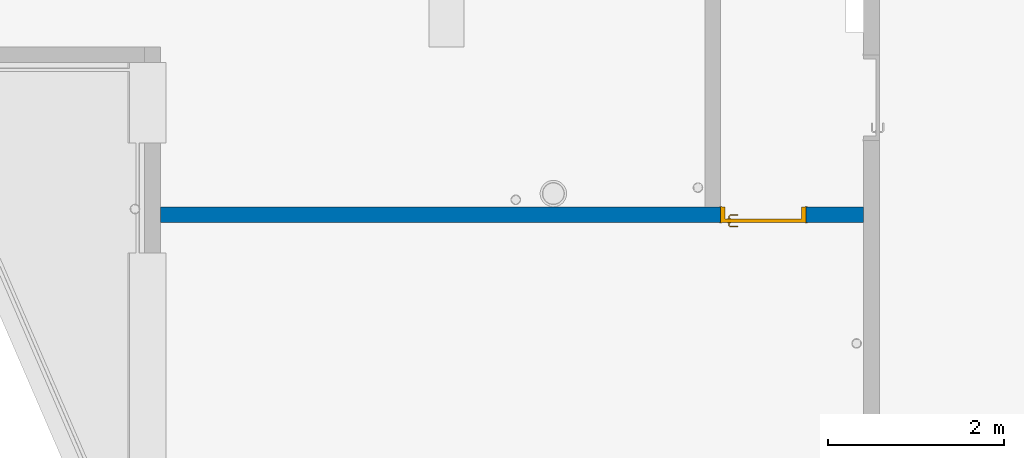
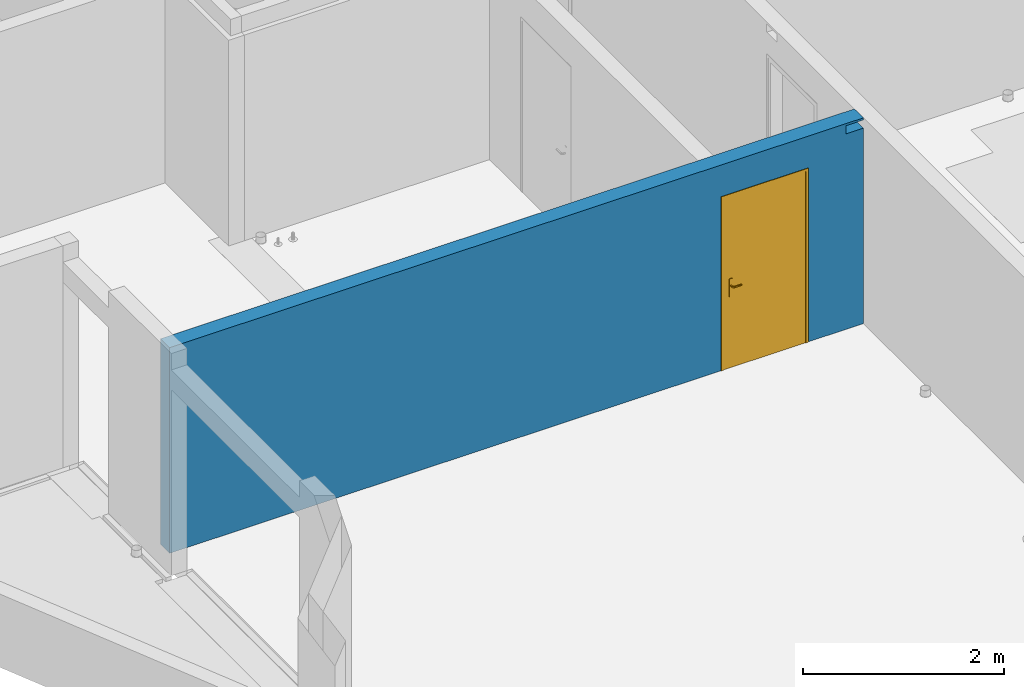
# One storey, part 3 of 30: 1 door, 1 wall, 2 openings.
"""IFC2X3 building model written with IfcOpenShell, lengths in centimetres."""

from ifc_helpers import new_model, entity, si_unit, converted_unit, derived_unit, direction, frame, frame_2d, origin, place, context, subcontext, project, spatial, rectangle, extrude, faceted_brep, source, transform, mapped, material, material_list, layer, layer_set, layer_usage, type_object, type_shapes, element, fill, save


model = new_model("IFC2X3")

# Units and contexts
model_context = context("Model", 3, precision=0.001, world=origin(), true_north=direction((6.12303176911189e-17, 1.0)))
body_context = subcontext(model_context, "Body", "Model", "MODEL_VIEW")
ifc_project = project(units=[si_unit("LENGTHUNIT", "METRE", prefix="CENTI"), si_unit("AREAUNIT", "SQUARE_METRE"), si_unit("VOLUMEUNIT", "CUBIC_METRE"), converted_unit("PLANEANGLEUNIT", "DEGREE", entity("IfcRatioMeasure", 0.0174532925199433), si_unit("PLANEANGLEUNIT", "RADIAN"), dimensions=[0, 0, 0, 0, 0, 0, 0]), si_unit("MASSUNIT", "GRAM", prefix="KILO"), derived_unit("MASSDENSITYUNIT", [(si_unit("MASSUNIT", "GRAM", prefix="KILO"), 1), (si_unit("LENGTHUNIT", "METRE"), -3)]), si_unit("TIMEUNIT", "SECOND"), si_unit("FREQUENCYUNIT", "HERTZ"), si_unit("THERMODYNAMICTEMPERATUREUNIT", "DEGREE_CELSIUS"), derived_unit("THERMALTRANSMITTANCEUNIT", [(si_unit("MASSUNIT", "GRAM", prefix="KILO"), 1), (si_unit("THERMODYNAMICTEMPERATUREUNIT", "KELVIN"), -1), (si_unit("TIMEUNIT", "SECOND"), -3)]), derived_unit("VOLUMETRICFLOWRATEUNIT", [(si_unit("LENGTHUNIT", "METRE"), 3), (si_unit("TIMEUNIT", "SECOND"), -1)]), si_unit("ELECTRICCURRENTUNIT", "AMPERE"), si_unit("ELECTRICVOLTAGEUNIT", "VOLT"), si_unit("POWERUNIT", "WATT"), si_unit("FORCEUNIT", "NEWTON"), si_unit("ILLUMINANCEUNIT", "LUX"), si_unit("LUMINOUSFLUXUNIT", "LUMEN"), si_unit("LUMINOUSINTENSITYUNIT", "CANDELA"), derived_unit("USERDEFINED", [(si_unit("MASSUNIT", "GRAM", prefix="KILO"), -1), (si_unit("LENGTHUNIT", "METRE"), -2), (si_unit("TIMEUNIT", "SECOND"), 3), (si_unit("LUMINOUSFLUXUNIT", "LUMEN"), 1)]), derived_unit("LINEARVELOCITYUNIT", [(si_unit("LENGTHUNIT", "METRE"), 1), (si_unit("TIMEUNIT", "SECOND"), -1)]), si_unit("PRESSUREUNIT", "PASCAL"), derived_unit("USERDEFINED", [(si_unit("LENGTHUNIT", "METRE"), -2), (si_unit("MASSUNIT", "GRAM", prefix="KILO"), 1), (si_unit("TIMEUNIT", "SECOND"), -2)])], contexts=[model_context])

# Site, building, storey
site_placement = place(None, origin())
site = spatial("IfcSite", under=ifc_project, at=site_placement, Name="Default", CompositionType="ELEMENT")
building_placement = place(site_placement, origin())
building = spatial("IfcBuilding", under=site, at=building_placement, Name="CAGE 03", CompositionType="ELEMENT")
storey_placement = place(building_placement, frame((0.0, 0.0, 610.0)))
storey = spatial("IfcBuildingStorey", under=building, at=storey_placement, Name="R+2", CompositionType="ELEMENT", Elevation=610.0)

# Wall, openings, door
ifc_material_1 = material(Name="Béton, C25/30")
ifc_layer = layer(ifc_material_1, 18.0)
ifc_layer_set = layer_set([ifc_layer], Name="Mur de base:Voile BA 18")
ifc_layer_usage = layer_usage(ifc_layer_set, "AXIS2", "NEGATIVE", 9.0)
wall_type = type_object("IfcWallType", Name="Mur de base:Voile BA 18", PredefinedType="STANDARD", material=ifc_layer_set)
wall_placement = place(storey_placement, frame((4134.36582014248, 4209.16066607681, 0.0), z_axis=(0.0, 0.0, 1.0), x_axis=(-1.0, 0.0, 0.0)))
wall = element("IfcWallStandardCase", 1, at=wall_placement, inside=storey, type_object=wall_type, material=ifc_layer_usage, Name="Mur de base:Voile BA 18", ObjectType="Mur de base:Voile BA 18", context=body_context, shape_type="SweptSolid", body=[
    extrude(rectangle(XDim=797.499999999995, YDim=17.9999999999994, at=frame_2d((398.749999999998, -2.65565347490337e-13), x_axis=(-1.0, 0.0))), origin(), (0.0, 0.0, 1.0), 250.0),
])
opening_1_placement = place(wall_placement, origin())
element("IfcOpeningElement", 2, at=opening_1_placement, cuts=wall, Name="Mur de base:Voile BA 18", ObjectType="Opening", context=body_context, shape_type="SweptSolid", body=[
    extrude(rectangle(XDim=10.0, YDim=19.9999999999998, at=frame_2d((4.33431068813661e-13, -5.41788836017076e-14), x_axis=(0.0, 1.0))), frame((10.0, -9.0, 242.5), z_axis=(0.0, 1.0, 0.0), x_axis=(1.0, 0.0, 0.0)), (0.0, 0.0, 1.0), 17.9999999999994),
])
opening_2_placement = place(wall_placement, frame((65.0, -9.0, 0.0)))
opening_2 = element("IfcOpeningElement", 3, at=opening_2_placement, cuts=wall, Name="Int. Simple:HB93:1", ObjectType="Opening", context=body_context, shape_type="SweptSolid", body=[
    extrude(rectangle(XDim=210.000000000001, YDim=96.9999999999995, at=frame_2d((105.000000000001, 48.4999999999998), x_axis=(1.0, 0.0))), frame((0.0, 0.0, 0.0), z_axis=(0.0, 1.0, 0.0), x_axis=(0.0, 0.0, 1.0)), (0.0, 0.0, 1.0), 18.0),
])
ifc_material_2 = material(Name="Finition Peinture - Blanc satiné")
ifc_material_3 = material(Name="Bois - Panneau de porte")
ifc_material_4 = material(Name="Bois - Cadre de porte")
ifc_material_list_1 = material_list([ifc_material_2, ifc_material_3, ifc_material_4])
ifc_material_list_2 = material_list([ifc_material_2, ifc_material_3, ifc_material_4])
door_style = type_object("IfcDoorStyle", Name="HB93", ConstructionType="NOTDEFINED", OperationType="SINGLE_SWING_LEFT", ParameterTakesPrecedence=False, Sizeable=False, material=ifc_material_list_2)
shared_shape = source(origin(), body_context, "Body", "Brep", [
    faceted_brep([(10.5352761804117, -0.500000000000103, 86.6003983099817), (11.5000000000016, -0.500000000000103, 87.0), (11.5000000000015, -0.500000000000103, 108.0), (10.5352761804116, -0.500000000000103, 108.399601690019), (9.50000000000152, -0.500000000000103, 108.535898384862), (8.46472381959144, -0.500000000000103, 108.399601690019), (7.50000000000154, -0.500000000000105, 108.0), (7.50000000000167, -0.500000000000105, 87.0), (8.46472381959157, -0.500000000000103, 86.6003983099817), (9.50000000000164, -0.500000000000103, 86.464101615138), (10.5352761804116, 0.0, 108.399601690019), (11.5000000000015, 0.0, 108.0), (11.5000000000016, 0.0, 87.0), (10.5352761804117, 0.0, 86.6003983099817), (9.50000000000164, 0.0, 86.464101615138), (8.46472381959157, 0.0, 86.6003983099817), (7.50000000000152, 0.0, 87.0), (7.50000000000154, 0.0, 108.0), (8.46472381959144, 0.0, 108.399601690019), (9.50000000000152, 0.0, 108.535898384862)], [[[0, 1, 2, 3, 4, 5, 6, 7, 8, 9]], [[10, 11, 12, 13, 14, 15, 16, 17, 18, 19]], [[16, 15, 8, 7]], [[8, 15, 14, 9]], [[14, 13, 0, 9]], [[13, 12, 1, 0]], [[2, 1, 12, 11]], [[11, 10, 3, 2]], [[3, 10, 19, 4]], [[19, 18, 5, 4]], [[18, 17, 6, 5]], [[7, 6, 17, 16]]]),
    faceted_brep([(10.5352761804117, 4.0, 86.6003983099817), (11.5000000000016, 4.0, 87.0), (11.5000000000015, 4.0, 108.0), (10.5352761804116, 4.0, 108.399601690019), (9.50000000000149, 4.0, 108.535898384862), (8.46472381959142, 4.0, 108.399601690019), (7.50000000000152, 4.0, 108.0), (7.50000000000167, 4.0, 87.0), (8.46472381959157, 4.0, 86.6003983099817), (9.50000000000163, 4.0, 86.464101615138), (10.5352761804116, 4.49999999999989, 108.399601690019), (11.5000000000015, 4.4999999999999, 108.0), (11.5000000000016, 4.4999999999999, 87.0), (10.5352761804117, 4.49999999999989, 86.6003983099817), (9.50000000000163, 4.49999999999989, 86.464101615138), (8.46472381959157, 4.49999999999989, 86.6003983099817), (7.50000000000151, 4.49999999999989, 87.0), (7.50000000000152, 4.49999999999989, 108.0), (8.46472381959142, 4.49999999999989, 108.399601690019), (9.50000000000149, 4.49999999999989, 108.535898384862)], [[[0, 1, 2, 3, 4, 5, 6, 7, 8, 9]], [[10, 11, 12, 13, 14, 15, 16, 17, 18, 19]], [[11, 10, 3, 2]], [[3, 10, 19, 4]], [[19, 18, 5, 4]], [[18, 17, 6, 5]], [[7, 6, 17, 16]], [[16, 15, 8, 7]], [[8, 15, 14, 9]], [[14, 13, 0, 9]], [[13, 12, 1, 0]], [[2, 1, 12, 11]]]),
    faceted_brep([(9.29747013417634, -0.500000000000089, 100.778044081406), (9.70252986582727, -0.500000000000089, 100.778044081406), (10.1000000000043, -0.500000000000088, 100.699999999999), (10.1000000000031, -0.500000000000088, 99.3000000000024), (9.70252986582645, -0.500000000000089, 99.2219559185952), (9.29747013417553, -0.500000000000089, 99.221955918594), (8.89999999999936, -0.500000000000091, 99.2999999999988), (8.89999999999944, -0.500000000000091, 100.7), (8.89999999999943, -3.26509507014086, 100.7), (9.29747013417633, -3.10045754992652, 100.778044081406), (10.9023585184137, -4.70534593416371, 100.778044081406), (11.0701397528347, -4.30028620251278, 100.778044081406), (9.70252986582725, -2.93267631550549, 100.778044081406), (10.1000000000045, -2.76803879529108, 100.7), (10.1000000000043, -2.76803879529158, 99.3000000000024), (9.70252986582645, -2.93267631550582, 99.2219559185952), (11.0701397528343, -4.30028620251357, 99.2219559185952), (10.9023585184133, -4.70534593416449, 99.221955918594), (9.29747013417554, -3.10045754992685, 99.221955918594), (8.89999999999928, -3.26509507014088, 99.2999999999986), (10.7377209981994, -5.1028160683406, 100.7), (11.2347772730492, -3.90281606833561, 100.7), (11.2347772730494, -3.90281606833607, 99.3000000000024), (10.7377209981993, -5.10281606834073, 99.2999999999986), (19.5018640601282, -5.1028160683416, 99.2999999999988), (19.5018640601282, -4.70534593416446, 99.221955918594), (19.5018640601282, -4.30028620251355, 99.2219559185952), (19.5018640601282, -3.90281606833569, 99.3000000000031), (19.5018640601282, -3.90281606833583, 100.7), (19.5018640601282, -4.30028620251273, 100.778044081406), (19.5018640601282, -4.70534593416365, 100.778044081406), (19.5018640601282, -5.10281606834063, 100.699999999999), (14.7307697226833, -5.10281606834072, 100.7), (15.28600190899, -4.5028160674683, 100.78786867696), (15.3683206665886, -3.9028160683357, 100.7), (15.3683206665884, -3.90281606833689, 99.3000000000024), (15.2860018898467, -4.50281607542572, 99.2121313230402), (14.7307700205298, -5.10281606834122, 99.2999999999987)], [[[0, 1, 2, 3, 4, 5, 6, 7]], [[8, 9, 0, 7]], [[9, 10, 11, 12, 1, 0]], [[12, 13, 2, 1]], [[3, 2, 13, 14]], [[14, 15, 4, 3]], [[15, 16, 17, 18, 5, 4]], [[18, 19, 6, 5]], [[7, 6, 19, 8]], [[20, 10, 9, 8]], [[11, 21, 13, 12]], [[14, 13, 21, 22]], [[22, 16, 15, 14]], [[17, 23, 19, 18]], [[8, 19, 23, 20]], [[24, 25, 26, 27, 28, 29, 30, 31]], [[32, 30, 33]], [[31, 30, 32]], [[10, 20, 32]], [[33, 34, 11]], [[21, 11, 34]], [[34, 29, 28]], [[30, 29, 33]], [[29, 34, 33]], [[10, 32, 33]], [[10, 33, 11]], [[22, 21, 34, 28, 27, 35]], [[35, 26, 36]], [[37, 36, 25]], [[22, 35, 16]], [[35, 27, 26]], [[24, 37, 25]], [[23, 17, 37]], [[37, 17, 36]], [[17, 16, 36]], [[16, 35, 36]], [[25, 36, 26]], [[20, 23, 37, 24, 31, 32]]]),
    faceted_brep([(9.29747013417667, 4.49999999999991, 100.778044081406), (8.89999999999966, 4.49999999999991, 100.7), (8.89999999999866, 4.49999999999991, 99.2999999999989), (9.2974701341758, 4.49999999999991, 99.221955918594), (9.70252986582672, 4.49999999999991, 99.2219559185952), (10.1000000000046, 4.49999999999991, 99.3000000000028), (10.1000000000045, 4.49999999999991, 100.7), (9.70252986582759, 4.49999999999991, 100.778044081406), (10.1000000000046, 6.7485204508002, 99.3000000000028), (10.1000000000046, 6.74852045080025, 100.7), (9.70252986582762, 6.91315797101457, 100.778044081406), (11.0838906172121, 8.29451872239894, 100.778044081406), (10.9161093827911, 8.69957845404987, 100.778044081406), (9.29747013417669, 7.0809392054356, 100.778044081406), (8.89999999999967, 7.24557672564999, 100.7), (8.89999999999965, 7.24557672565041, 99.2999999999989), (9.29747013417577, 7.08093920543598, 99.221955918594), (10.9161093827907, 8.69957845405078, 99.221955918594), (11.0838906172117, 8.29451872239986, 99.2219559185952), (9.7025298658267, 6.91315797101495, 99.2219559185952), (11.2485281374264, 7.89704858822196, 99.3000000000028), (11.2485281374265, 7.89704858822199, 100.7), (10.7514718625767, 9.0970485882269, 100.7), (10.751471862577, 9.0970485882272, 99.2999999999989), (19.504578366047, 7.89704858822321, 99.3000000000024), (19.504578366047, 8.29451872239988, 99.2219559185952), (19.504578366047, 8.6995784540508, 99.221955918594), (19.504578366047, 9.09704858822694, 99.2999999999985), (19.504578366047, 9.09704858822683, 100.7), (19.504578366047, 8.69957845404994, 100.778044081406), (19.504578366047, 8.29451872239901, 100.778044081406), (19.504578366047, 7.89704858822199, 100.7), (15.3765520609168, 7.89704858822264, 99.3000000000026), (15.3765532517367, 7.89704858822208, 100.7), (15.294234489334, 8.49704858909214, 100.78786867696), (14.7445205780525, 9.09704858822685, 100.7), (14.7445204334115, 9.09704858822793, 99.2999999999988), (15.2942345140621, 8.49704858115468, 99.2121313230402)], [[[0, 1, 2, 3, 4, 5, 6, 7]], [[6, 5, 8, 9]], [[9, 10, 7, 6]], [[10, 11, 12, 13, 0, 7]], [[13, 14, 1, 0]], [[2, 1, 14, 15]], [[15, 16, 3, 2]], [[16, 17, 18, 19, 4, 3]], [[19, 8, 5, 4]], [[9, 8, 20, 21]], [[21, 11, 10, 9]], [[12, 22, 14, 13]], [[15, 14, 22, 23]], [[23, 17, 16, 15]], [[18, 20, 8, 19]], [[24, 25, 26, 27, 28, 29, 30, 31]], [[21, 20, 32, 24, 31, 33]], [[33, 30, 34]], [[35, 34, 29]], [[21, 33, 11]], [[33, 31, 30]], [[28, 35, 29]], [[22, 12, 35]], [[35, 12, 34]], [[12, 11, 34]], [[11, 33, 34]], [[29, 34, 30]], [[22, 35, 28, 27, 36, 23]], [[36, 26, 37]], [[27, 26, 36]], [[17, 23, 36]], [[37, 32, 18]], [[20, 18, 32]], [[32, 25, 24]], [[26, 25, 37]], [[25, 32, 37]], [[17, 36, 37]], [[17, 37, 18]]]),
    faceted_brep([(3.50000000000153, 4.0, 206.5), (93.5000000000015, 4.0, 206.5), (93.5000000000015, 4.0, 0.0), (3.50000000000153, 4.0, 0.0), (3.50000000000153, 0.0, 206.5), (3.50000000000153, 0.0, 0.0), (93.5000000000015, 0.0, 0.0), (93.5000000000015, 0.0, 206.5)], [[[0, 1, 2, 3]], [[4, 5, 6, 7]], [[1, 0, 4, 7]], [[2, 1, 7, 6]], [[3, 2, 6, 5]], [[0, 3, 5, 4]]]),
    faceted_brep([(0.0, 0.0, 0.0), (0.0, 18.0, 0.0), (5.0, 18.0, 0.0), (5.0, 4.0, 0.0), (3.50000000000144, 4.0, 0.0), (3.50000000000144, 0.0, 0.0), (0.0, 0.0, 210.0), (0.0, 18.0, 210.0), (97.0, 18.0, 210.0), (97.0, 18.0, 0.0), (92.0, 18.0, 0.0), (92.0, 18.0, 205.0), (5.0, 18.0, 205.0), (5.0, 4.0, 205.0), (92.0, 4.0, 205.0), (92.0, 4.0, 0.0), (93.4999999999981, 4.0, 0.0), (93.4999999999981, 4.0, 206.5), (3.50000000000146, 4.0, 206.5), (3.50000000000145, 0.0, 206.5), (93.4999999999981, 0.0, 206.5), (93.4999999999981, 0.0, 0.0), (97.0, 0.0, 0.0), (97.0, 0.0, 210.0)], [[[0, 1, 2, 3, 4, 5]], [[1, 0, 6, 7]], [[2, 1, 7, 8, 9, 10, 11, 12]], [[3, 2, 12, 13]], [[4, 3, 13, 14, 15, 16, 17, 18]], [[5, 4, 18, 19]], [[0, 5, 19, 20, 21, 22, 23, 6]], [[8, 23, 22, 9]], [[22, 21, 16, 15, 10, 9]], [[14, 11, 10, 15]], [[20, 17, 16, 21]], [[7, 6, 23, 8]], [[13, 12, 11, 14]], [[19, 18, 17, 20]]]),
    faceted_brep([(1.5, 18.0, 0.0), (-1.49999999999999, 18.0, 0.0), (-1.49999999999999, 18.5000000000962, 0.0), (1.5, 18.5000000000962, 0.0), (1.5, 18.0, 208.500000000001), (95.4999999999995, 18.0, 208.500000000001), (95.4999999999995, 18.0, 0.0), (98.4999999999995, 18.0, 0.0), (98.4999999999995, 18.0, 211.500000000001), (-1.49999999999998, 18.0, 211.500000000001), (-1.49999999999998, 18.5000000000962, 211.500000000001), (98.4999999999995, 18.5000000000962, 211.500000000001), (98.4999999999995, 18.5000000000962, 0.0), (95.4999999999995, 18.5000000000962, 0.0), (95.4999999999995, 18.5000000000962, 208.500000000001), (1.50000000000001, 18.5000000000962, 208.500000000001)], [[[0, 1, 2, 3]], [[1, 0, 4, 5, 6, 7, 8, 9]], [[2, 1, 9, 10]], [[3, 2, 10, 11, 12, 13, 14, 15]], [[0, 3, 15, 4]], [[6, 13, 12, 7]], [[5, 14, 13, 6]], [[11, 8, 7, 12]], [[10, 9, 8, 11]], [[4, 15, 14, 5]]]),
    faceted_brep([(-1.49999999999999, -0.5, 0.0), (1.5, -0.5, 0.0), (1.5, -0.5, 208.500000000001), (95.4999999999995, -0.5, 208.500000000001), (95.4999999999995, -0.5, 0.0), (98.4999999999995, -0.5, 0.0), (98.4999999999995, -0.5, 211.500000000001), (-1.49999999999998, -0.5, 211.500000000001), (-1.49999999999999, 0.0, 0.0), (-1.49999999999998, 0.0, 211.500000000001), (1.5, 0.0, 0.0), (98.4999999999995, 0.0, 211.500000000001), (98.4999999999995, 0.0, 0.0), (95.4999999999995, 0.0, 0.0), (95.4999999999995, 0.0, 208.500000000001), (1.50000000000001, 0.0, 208.500000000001)], [[[0, 1, 2, 3, 4, 5, 6, 7]], [[8, 0, 7, 9]], [[10, 8, 9, 11, 12, 13, 14, 15]], [[1, 10, 15, 2]], [[3, 14, 13, 4]], [[11, 6, 5, 12]], [[9, 7, 6, 11]], [[2, 15, 14, 3]], [[4, 13, 12, 5]], [[1, 0, 8, 10]]]),
])
type_shapes(door_style, [shared_shape])
door_placement = place(opening_2_placement, frame((97.0, 18.0, 0.0), z_axis=(0.0, 0.0, 1.0), x_axis=(-1.0, 0.0, 0.0)))
door = element("IfcDoor", 4, at=door_placement, inside=storey, type_object=door_style, material=ifc_material_list_1, Name="Int. Simple:HB93", ObjectType="HB93", OverallHeight=210.000000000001, OverallWidth=96.9999999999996, context=body_context, shape_type="MappedRepresentation", body=[
    mapped(shared_shape, transform((0.0, 0.0, 0.0), scale=1.0)),
])
fill(opening_2, door)

save(model, "model.ifc")
